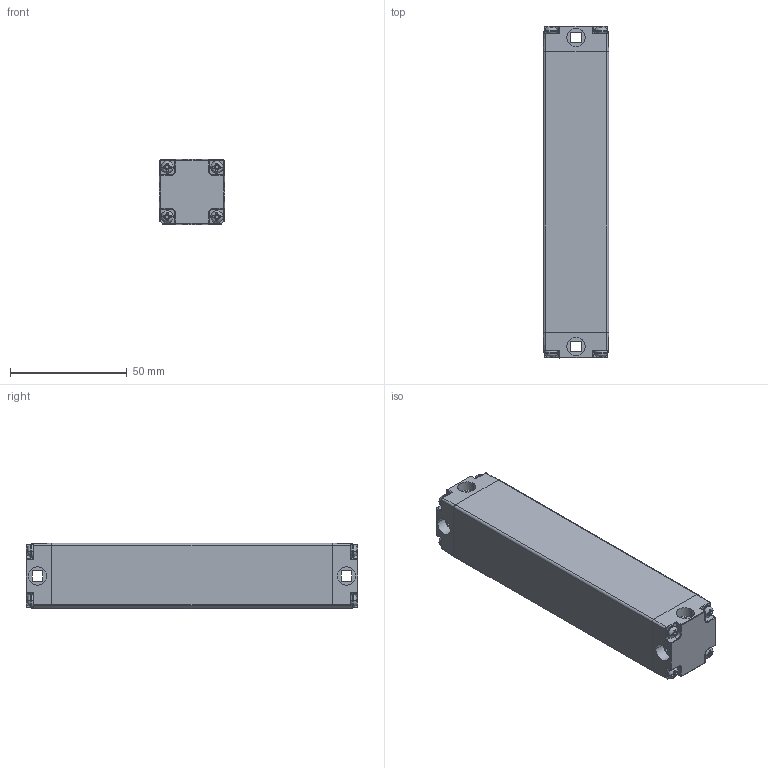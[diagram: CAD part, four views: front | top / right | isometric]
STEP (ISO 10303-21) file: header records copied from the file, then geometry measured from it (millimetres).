
FILE_DESCRIPTION((''),'2;1');
FILE_NAME('ELD00_ASM','2021-07-20T09:19:23',('18720616900'),(''),'CREO PARAMETRIC BY PTC INC, 2019010','CREO PARAMETRIC BY PTC INC, 2019010','');
FILE_SCHEMA(('CONFIG_CONTROL_DESIGN'));
Length unit declared in the file: millimetre
Products named in the file (6): ELD--00; ELD--000; ST-3-12; ELD00_ASM
Assembly tree (12 placements, depth 2):
  ELD00_ASM
    ELD--00
    ELD--000
    ELD--000
    ELD--000
    ST-3-12  x8
Bounding box: 28 x 142 x 28 mm (x, y, z)
Volume: 107069.7 mm3; surface area: 29539.1 mm2
Topology: 12 solids, 12 shells, 792 faces, 2082 edges, 1296 vertices
Faces by surface type: plane 236, cone 172, bspline 168, cylinder 156, torus 44, sphere 16
Entity records: 14414 total; most frequent: CARTESIAN_POINT 6863, ORIENTED_EDGE 1584, DIRECTION 1469, EDGE_CURVE 792, AXIS2_PLACEMENT_3D 520, VERTEX_POINT 491, VECTOR 429, LINE 429
